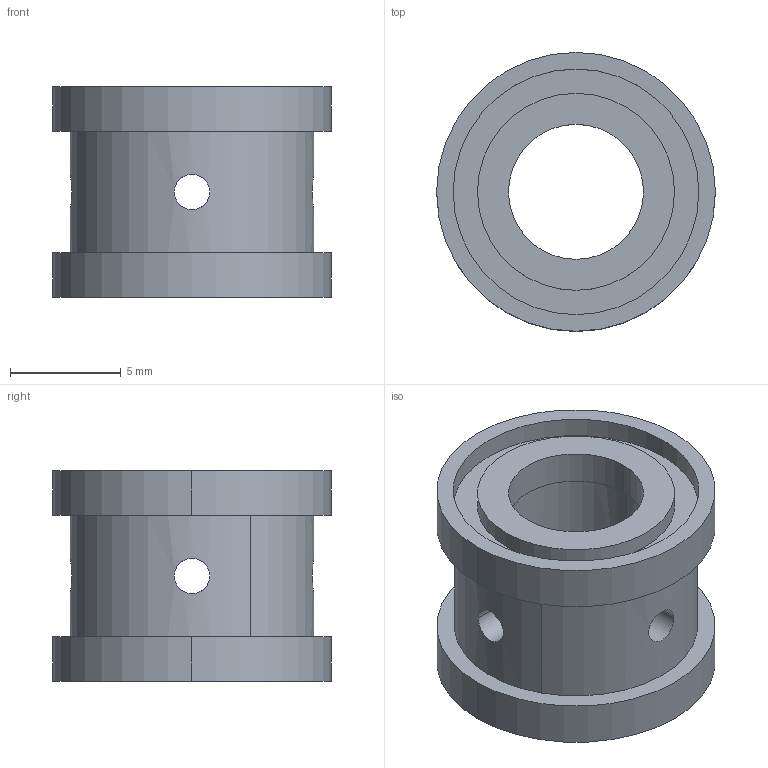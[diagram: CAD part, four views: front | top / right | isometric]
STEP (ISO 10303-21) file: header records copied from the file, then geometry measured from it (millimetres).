
FILE_DESCRIPTION(('CATIA V5 STEP Exchange'),'2;1');
FILE_NAME('C:\Users\Administrator\Desktop\LS42.15_V1 支撑圈B.stp','2020-04-01T10:25:34+00:00',('none'),('none'),'CATIA Version 5 Release 21 GA (IN-10)','CATIA V5 STEP AP214','none');
FILE_SCHEMA(('AUTOMOTIVE_DESIGN { 1 0 10303 214 1 1 1 1 }'));
Length unit declared in the file: millimetre
Products named in the file (1): Copy (1) of 支撑圈B
Bounding box: 12.6 x 12.6 x 9.5 mm (x, y, z)
Volume: 630.4 mm3; surface area: 917.4 mm2
Topology: 1 solids, 1 shells, 35 faces, 88 edges, 60 vertices
Faces by surface type: cylinder 26, plane 9
Entity records: 1080 total; most frequent: CARTESIAN_POINT 300, ORIENTED_EDGE 176, DIRECTION 102, EDGE_CURVE 88, VERTEX_POINT 60, AXIS2_PLACEMENT_3D 56, EDGE_LOOP 50, CIRCLE 36
